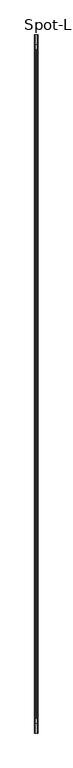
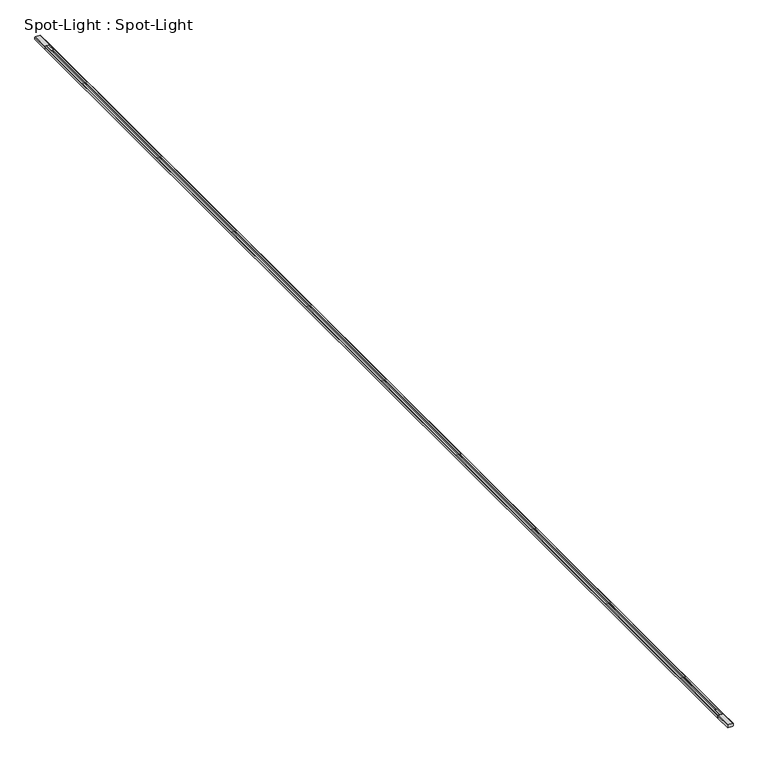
"""IFC4 building model written with IfcOpenShell, lengths in millimetres: light fixture geometry, Spot-Light : Spot-Light."""

from ifc_helpers import new_model, si_unit, frame, origin, place, context, project, spatial, polyline, outline, extrude, source, transform, mapped, element, save


def spot_light_spot_light_b3140007(model_context):
    return source(origin(), model_context, "Body", "SweptSolid", [
        extrude(outline(polyline([(19.0002441, -6.5002441), (15.5004883, -6.5002441), (15.5004883, -12.9992664), (3.500061, -12.9992652), (3.500061, 12.99927), (15.5004883, 12.99927), (15.5004883, 6.5002441), (19.0002441, 6.5002441), (19.0002441, -6.5002441)])), frame((0.0, 3446.1605835, 0.0), z_axis=(0.0, 1.0, 0.0), x_axis=(0.0, 0.0, 1.0)), (0.0, 0.0, 1.0), 50.0),
        extrude(outline(polyline([(19.0005493, -14.6994006), (17.2003174, -16.5002429), (1.7999268, -16.5002406), (0.0, -14.6997035), (0.0, 14.6997094), (1.7999268, 16.5002465), (17.2003174, 16.5002465), (19.0005493, 14.6994041), (19.0005493, -14.6994006)])), frame((0.0, 3496.1605835, 0.0), z_axis=(0.0, 1.0, 0.0), x_axis=(0.0, 0.0, 1.0)), (0.0, 0.0, 1.0), 100.0),
        extrude(outline(polyline([(19.0002441, -6.5002441), (15.5004883, -6.5002441), (15.5004883, -12.9992664), (3.500061, -12.9992652), (3.500061, 12.99927), (15.5004883, 12.99927), (15.5004883, 6.5002441), (19.0002441, 6.5002441), (19.0002441, -6.5002441)])), frame((0.0, -3496.1605835, 0.0), z_axis=(0.0, 1.0, 0.0), x_axis=(0.0, 0.0, 1.0)), (0.0, 0.0, 1.0), 50.0),
        extrude(outline(polyline([(19.0005493, -14.6994006), (17.2003174, -16.5002429), (1.7999268, -16.5002406), (0.0, -14.6997035), (0.0, 14.6997094), (1.7999268, 16.5002465), (17.2003174, 16.5002465), (19.0005493, 14.6994041), (19.0005493, -14.6994006)])), frame((0.0, -3596.1605835, 0.0), z_axis=(0.0, 1.0, 0.0), x_axis=(0.0, 0.0, 1.0)), (0.0, 0.0, 1.0), 100.0),
        extrude(outline(polyline([(19.0002441, 6.5002441), (15.5004883, 6.5002441), (15.5004883, 12.99927), (3.500061, 12.99927), (3.500061, -12.9992652), (15.5004883, -12.9992664), (15.5004883, -6.5002441), (19.0002441, -6.5002441), (19.0002441, -14.6997058), (17.2003174, -16.5002429), (1.7999268, -16.5002406), (0.0, -14.6997035), (0.0, 14.6997094), (1.7999268, 16.5002465), (17.2003174, 16.5002465), (19.0002441, 14.6997094), (19.0002441, 6.5002441)])), frame((0.0, -3496.1605835, 0.0), z_axis=(0.0, 1.0, 0.0), x_axis=(0.0, 0.0, 1.0)), (0.0, 0.0, 1.0), 6992.321167),
    ])


if __name__ == "__main__":
    model = new_model("IFC4")
    model_context = context("Model", 3, world=origin())
    ifc_project = project(units=[si_unit("LENGTHUNIT", "METRE", prefix="MILLI")], contexts=[model_context])
    site = spatial("IfcSite", under=ifc_project)
    building = spatial("IfcBuilding", under=site)
    placement = place(None, origin())
    spot_light_spot_light_shape = spot_light_spot_light_b3140007(model_context)
    element("IfcLightFixture", 1, ObjectType="Spot-Light : Spot-Light", at=placement, inside=building, context=model_context, shape_type="MappedRepresentation", body=[
        mapped(spot_light_spot_light_shape, transform((0.0, 0.0, 0.0), x_axis=(1.0, 0.0, 0.0), y_axis=(0.0, 1.0, 0.0), z_axis=(0.0, 0.0, 1.0))),
    ])
    save(model, "model.ifc")
